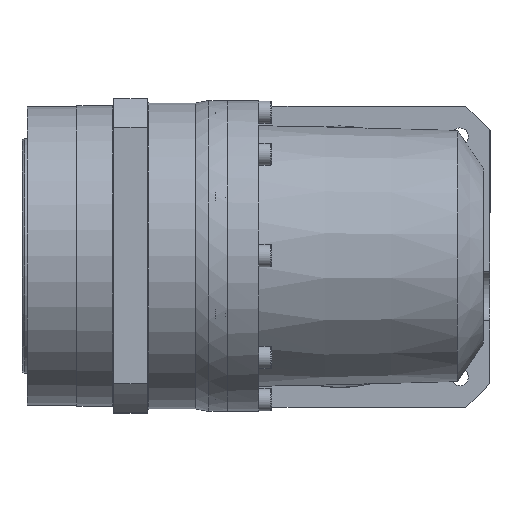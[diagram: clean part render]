
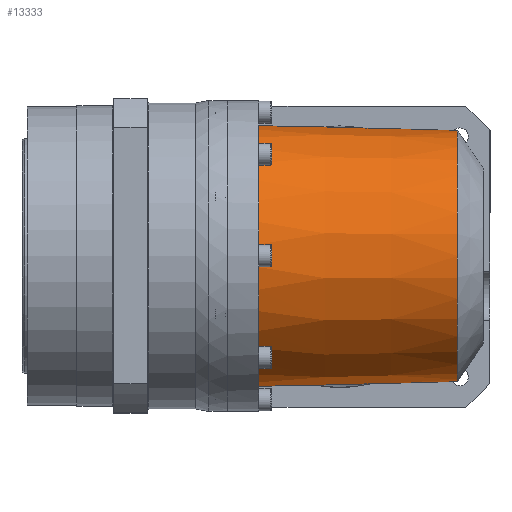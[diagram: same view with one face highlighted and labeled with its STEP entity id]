
A CAD part, top view. The second image highlights one B-rep face of the part: STEP entity #13333.
In plain terms, the highlighted conical face has half-angle 1.507 degrees and reference radius 49 mm.
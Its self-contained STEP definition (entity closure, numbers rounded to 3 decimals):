
#755=CONICAL_SURFACE('',#14887,49.,0.026);
#1552=FACE_OUTER_BOUND('',#2354,.T.);
#2354=EDGE_LOOP('',(#10256,#10257,#10258,#10259,#10260,#10261,#10262));
#3087=B_SPLINE_CURVE_WITH_KNOTS('',3,(#22848,#22849,#22850,#22851),
 .UNSPECIFIED.,.F.,.F.,(4,4),(0.5,5.292),
 .UNSPECIFIED.);
#3091=B_SPLINE_CURVE_WITH_KNOTS('',3,(#23009,#23010,#23011,#23012,#23013,
#23014,#23015,#23016,#23017,#23018,#23019,#23020,#23021,#23022,#23023,#23024,
#23025,#23026,#23027,#23028,#23029,#23030,#23031,#23032,#23033,#23034,#23035,
#23036,#23037,#23038,#23039,#23040,#23041,#23042,#23043,#23044,#23045,#23046,
#23047,#23048),.UNSPECIFIED.,.F.,.F.,(4,3,3,3,3,3,3,3,3,3,3,3,3,4),(-10.923,
-10.569,-10.204,-9.819,-9.568,
-9.149,-8.714,-8.257,-8.03,
-7.583,-7.137,-6.894,-6.651,
-6.492),.UNSPECIFIED.);
#3096=B_SPLINE_CURVE_WITH_KNOTS('',3,(#23081,#23082,#23083,#23084,#23085,
#23086,#23087,#23088,#23089,#23090,#23091,#23092,#23093,#23094,#23095,#23096,
#23097,#23098,#23099,#23100,#23101,#23102,#23103,#23104,#23105,#23106,#23107,
#23108,#23109,#23110,#23111,#23112,#23113,#23114,#23115,#23116,#23117,#23118,
#23119,#23120),.UNSPECIFIED.,.F.,.F.,(4,3,3,3,3,3,3,3,3,3,3,3,3,4),(-17.257,
-16.765,-16.229,-15.718,-15.217,-14.775,
-14.561,-14.258,-14.181,-13.89,
-13.609,-13.335,-13.072,-12.825),
 .UNSPECIFIED.);
#3097=B_SPLINE_CURVE_WITH_KNOTS('',3,(#23142,#23143,#23144,#23145),
 .UNSPECIFIED.,.F.,.F.,(4,4),(-5.292,-0.5),
 .UNSPECIFIED.);
#4792=CIRCLE('',#14888,48.);
#4793=CIRCLE('',#14889,48.);
#4794=CIRCLE('',#14890,50.);
#6033=VERTEX_POINT('',#22797);
#6034=VERTEX_POINT('',#22847);
#6036=VERTEX_POINT('',#22933);
#6037=VERTEX_POINT('',#22934);
#6038=VERTEX_POINT('',#23008);
#6042=VERTEX_POINT('',#23141);
#6045=VERTEX_POINT('',#23206);
#7699=EDGE_CURVE('',#6033,#6034,#3087,.T.);
#7703=EDGE_CURVE('',#6036,#6038,#3091,.T.);
#7708=EDGE_CURVE('',#6034,#6037,#3096,.T.);
#7709=EDGE_CURVE('',#6038,#6042,#3097,.T.);
#7713=EDGE_CURVE('',#6036,#6045,#4792,.T.);
#7714=EDGE_CURVE('',#6045,#6037,#4793,.T.);
#7715=EDGE_CURVE('',#6042,#6033,#4794,.T.);
#10256=ORIENTED_EDGE('',*,*,#7709,.F.);
#10257=ORIENTED_EDGE('',*,*,#7703,.F.);
#10258=ORIENTED_EDGE('',*,*,#7713,.T.);
#10259=ORIENTED_EDGE('',*,*,#7714,.T.);
#10260=ORIENTED_EDGE('',*,*,#7708,.F.);
#10261=ORIENTED_EDGE('',*,*,#7699,.F.);
#10262=ORIENTED_EDGE('',*,*,#7715,.F.);
#13333=ADVANCED_FACE('',(#1552),#755,.T.);
#14887=AXIS2_PLACEMENT_3D('',#23205,#17571,#17572);
#14888=AXIS2_PLACEMENT_3D('',#23207,#17573,#17574);
#14889=AXIS2_PLACEMENT_3D('',#23208,#17575,#17576);
#14890=AXIS2_PLACEMENT_3D('',#23209,#17577,#17578);
#17571=DIRECTION('center_axis',(-1.,0.,0.));
#17572=DIRECTION('ref_axis',(0.,0.,-1.));
#17573=DIRECTION('center_axis',(-1.,0.,0.));
#17574=DIRECTION('ref_axis',(0.,0.,1.));
#17575=DIRECTION('center_axis',(-1.,0.,0.));
#17576=DIRECTION('ref_axis',(0.,0.,1.));
#17577=DIRECTION('center_axis',(-1.,0.,0.));
#17578=DIRECTION('ref_axis',(0.,0.,1.));
#22797=CARTESIAN_POINT('',(12.,-35.15,35.559));
#22847=CARTESIAN_POINT('',(59.899,-34.554,34.374));
#22848=CARTESIAN_POINT('Ctrl Pts',(12.,-35.15,35.559));
#22849=CARTESIAN_POINT('Ctrl Pts',(27.966,-34.952,35.164));
#22850=CARTESIAN_POINT('Ctrl Pts',(43.932,-34.753,34.769));
#22851=CARTESIAN_POINT('Ctrl Pts',(59.899,-34.554,34.374));
#22933=CARTESIAN_POINT('',(88.,8.479,47.245));
#22934=CARTESIAN_POINT('',(88.,-8.479,47.245));
#23008=CARTESIAN_POINT('',(59.899,34.554,34.374));
#23009=CARTESIAN_POINT('Ctrl Pts',(88.,8.479,47.246));
#23010=CARTESIAN_POINT('Ctrl Pts',(87.704,9.501,47.07));
#23011=CARTESIAN_POINT('Ctrl Pts',(87.357,10.505,46.864));
#23012=CARTESIAN_POINT('Ctrl Pts',(86.962,11.488,46.631));
#23013=CARTESIAN_POINT('Ctrl Pts',(86.555,12.499,46.392));
#23014=CARTESIAN_POINT('Ctrl Pts',(86.099,13.488,46.125));
#23015=CARTESIAN_POINT('Ctrl Pts',(85.597,14.452,45.836));
#23016=CARTESIAN_POINT('Ctrl Pts',(85.068,15.466,45.53));
#23017=CARTESIAN_POINT('Ctrl Pts',(84.49,16.452,45.2));
#23018=CARTESIAN_POINT('Ctrl Pts',(83.867,17.405,44.849));
#23019=CARTESIAN_POINT('Ctrl Pts',(83.46,18.028,44.619));
#23020=CARTESIAN_POINT('Ctrl Pts',(83.034,18.637,44.381));
#23021=CARTESIAN_POINT('Ctrl Pts',(82.591,19.231,44.136));
#23022=CARTESIAN_POINT('Ctrl Pts',(81.849,20.225,43.726));
#23023=CARTESIAN_POINT('Ctrl Pts',(81.059,21.177,43.295));
#23024=CARTESIAN_POINT('Ctrl Pts',(80.223,22.089,42.849));
#23025=CARTESIAN_POINT('Ctrl Pts',(79.358,23.033,42.388));
#23026=CARTESIAN_POINT('Ctrl Pts',(78.444,23.934,41.912));
#23027=CARTESIAN_POINT('Ctrl Pts',(77.486,24.792,41.427));
#23028=CARTESIAN_POINT('Ctrl Pts',(76.482,25.691,40.919));
#23029=CARTESIAN_POINT('Ctrl Pts',(75.431,26.543,40.402));
#23030=CARTESIAN_POINT('Ctrl Pts',(74.336,27.347,39.884));
#23031=CARTESIAN_POINT('Ctrl Pts',(73.79,27.748,39.626));
#23032=CARTESIAN_POINT('Ctrl Pts',(73.233,28.138,39.368));
#23033=CARTESIAN_POINT('Ctrl Pts',(72.667,28.516,39.11));
#23034=CARTESIAN_POINT('Ctrl Pts',(71.556,29.257,38.605));
#23035=CARTESIAN_POINT('Ctrl Pts',(70.406,29.954,38.103));
#23036=CARTESIAN_POINT('Ctrl Pts',(69.22,30.605,37.613));
#23037=CARTESIAN_POINT('Ctrl Pts',(68.034,31.256,37.124));
#23038=CARTESIAN_POINT('Ctrl Pts',(66.811,31.862,36.647));
#23039=CARTESIAN_POINT('Ctrl Pts',(65.554,32.421,36.19));
#23040=CARTESIAN_POINT('Ctrl Pts',(64.87,32.726,35.942));
#23041=CARTESIAN_POINT('Ctrl Pts',(64.175,33.017,35.7));
#23042=CARTESIAN_POINT('Ctrl Pts',(63.471,33.294,35.466));
#23043=CARTESIAN_POINT('Ctrl Pts',(62.767,33.571,35.231));
#23044=CARTESIAN_POINT('Ctrl Pts',(62.053,33.834,35.005));
#23045=CARTESIAN_POINT('Ctrl Pts',(61.33,34.083,34.788));
#23046=CARTESIAN_POINT('Ctrl Pts',(60.857,34.246,34.645));
#23047=CARTESIAN_POINT('Ctrl Pts',(60.38,34.403,34.507));
#23048=CARTESIAN_POINT('Ctrl Pts',(59.899,34.554,34.374));
#23081=CARTESIAN_POINT('Ctrl Pts',(59.899,-34.554,34.374));
#23082=CARTESIAN_POINT('Ctrl Pts',(61.387,-34.087,34.787));
#23083=CARTESIAN_POINT('Ctrl Pts',(62.837,-33.563,35.243));
#23084=CARTESIAN_POINT('Ctrl Pts',(64.246,-32.982,35.727));
#23085=CARTESIAN_POINT('Ctrl Pts',(65.782,-32.349,36.256));
#23086=CARTESIAN_POINT('Ctrl Pts',(67.27,-31.648,36.82));
#23087=CARTESIAN_POINT('Ctrl Pts',(68.706,-30.882,37.403));
#23088=CARTESIAN_POINT('Ctrl Pts',(70.073,-30.152,37.959));
#23089=CARTESIAN_POINT('Ctrl Pts',(71.393,-29.363,38.532));
#23090=CARTESIAN_POINT('Ctrl Pts',(72.664,-28.514,39.11));
#23091=CARTESIAN_POINT('Ctrl Pts',(73.913,-27.68,39.678));
#23092=CARTESIAN_POINT('Ctrl Pts',(75.114,-26.789,40.251));
#23093=CARTESIAN_POINT('Ctrl Pts',(76.261,-25.841,40.817));
#23094=CARTESIAN_POINT('Ctrl Pts',(77.271,-25.005,41.315));
#23095=CARTESIAN_POINT('Ctrl Pts',(78.238,-24.124,41.809));
#23096=CARTESIAN_POINT('Ctrl Pts',(79.158,-23.199,42.289));
#23097=CARTESIAN_POINT('Ctrl Pts',(79.604,-22.751,42.522));
#23098=CARTESIAN_POINT('Ctrl Pts',(80.038,-22.292,42.752));
#23099=CARTESIAN_POINT('Ctrl Pts',(80.461,-21.822,42.978));
#23100=CARTESIAN_POINT('Ctrl Pts',(81.058,-21.158,43.297));
#23101=CARTESIAN_POINT('Ctrl Pts',(81.632,-20.474,43.609));
#23102=CARTESIAN_POINT('Ctrl Pts',(82.18,-19.768,43.91));
#23103=CARTESIAN_POINT('Ctrl Pts',(82.319,-19.589,43.986));
#23104=CARTESIAN_POINT('Ctrl Pts',(82.456,-19.408,44.062));
#23105=CARTESIAN_POINT('Ctrl Pts',(82.592,-19.227,44.137));
#23106=CARTESIAN_POINT('Ctrl Pts',(83.107,-18.537,44.422));
#23107=CARTESIAN_POINT('Ctrl Pts',(83.598,-17.827,44.697));
#23108=CARTESIAN_POINT('Ctrl Pts',(84.064,-17.1,44.96));
#23109=CARTESIAN_POINT('Ctrl Pts',(84.511,-16.4,45.213));
#23110=CARTESIAN_POINT('Ctrl Pts',(84.935,-15.683,45.454));
#23111=CARTESIAN_POINT('Ctrl Pts',(85.332,-14.95,45.682));
#23112=CARTESIAN_POINT('Ctrl Pts',(85.719,-14.236,45.905));
#23113=CARTESIAN_POINT('Ctrl Pts',(86.082,-13.506,46.116));
#23114=CARTESIAN_POINT('Ctrl Pts',(86.418,-12.763,46.312));
#23115=CARTESIAN_POINT('Ctrl Pts',(86.741,-12.048,46.5));
#23116=CARTESIAN_POINT('Ctrl Pts',(87.039,-11.32,46.676));
#23117=CARTESIAN_POINT('Ctrl Pts',(87.31,-10.581,46.836));
#23118=CARTESIAN_POINT('Ctrl Pts',(87.564,-9.89,46.986));
#23119=CARTESIAN_POINT('Ctrl Pts',(87.795,-9.189,47.123));
#23120=CARTESIAN_POINT('Ctrl Pts',(88.,-8.479,47.246));
#23141=CARTESIAN_POINT('',(12.,35.15,35.559));
#23142=CARTESIAN_POINT('Ctrl Pts',(59.899,34.554,34.374));
#23143=CARTESIAN_POINT('Ctrl Pts',(43.932,34.753,34.769));
#23144=CARTESIAN_POINT('Ctrl Pts',(27.966,34.952,35.164));
#23145=CARTESIAN_POINT('Ctrl Pts',(12.,35.15,35.559));
#23205=CARTESIAN_POINT('Origin',(50.,0.,0.));
#23206=CARTESIAN_POINT('',(88.,48.,0.));
#23207=CARTESIAN_POINT('Origin',(88.,0.,0.));
#23208=CARTESIAN_POINT('Origin',(88.,0.,0.));
#23209=CARTESIAN_POINT('Origin',(12.,0.,0.));
